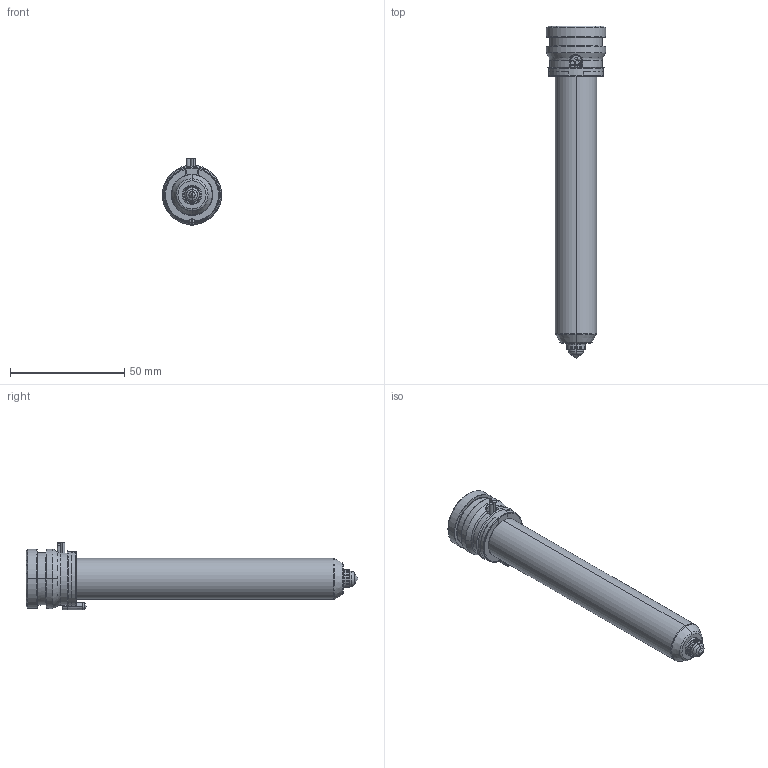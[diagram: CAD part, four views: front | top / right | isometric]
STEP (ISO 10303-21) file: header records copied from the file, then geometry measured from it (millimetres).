
FILE_DESCRIPTION((''),'2;1');
FILE_NAME('TH18127_5-A-1B15-PK-JG','2023-12-14T',('umhib'),('Thermoplay S.p.A.'),'PRO/ENGINEER BY PARAMETRIC TECHNOLOGY CORPORATION, 2017170','PRO/ENGINEER BY PARAMETRIC TECHNOLOGY CORPORATION, 2017170','');
FILE_SCHEMA(('CONFIG_CONTROL_DESIGN'));
Length unit declared in the file: millimetre
Products named in the file (1): TH18127_5-A-1B15-PK-JG
Bounding box: 26 x 145.5 x 29.5 mm (x, y, z)
Volume: 29527 mm3; surface area: 21499.3 mm2
Topology: 1 solids, 2 shells, 398 faces, 1036 edges, 643 vertices
Faces by surface type: cylinder 151, plane 85, cone 68, torus 56, bspline 24, sphere 12, extrusion 2
Entity records: 18088 total; most frequent: CARTESIAN_POINT 6123, ORIENTED_EDGE 2048, DIRECTION 2031, EDGE_CURVE 1026, AXIS2_PLACEMENT_3D 815, VERTEX_POINT 643, CIRCLE 442, EDGE_LOOP 418
